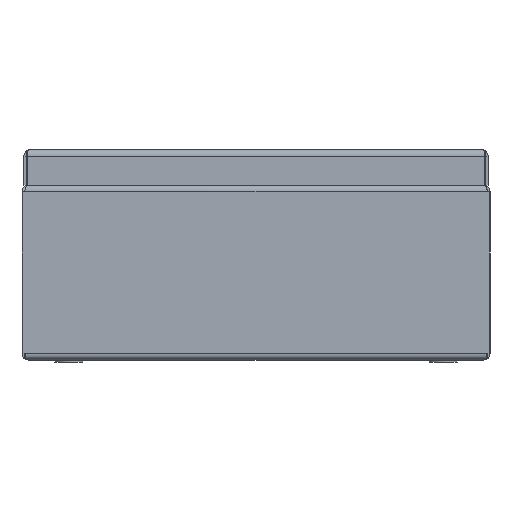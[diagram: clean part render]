
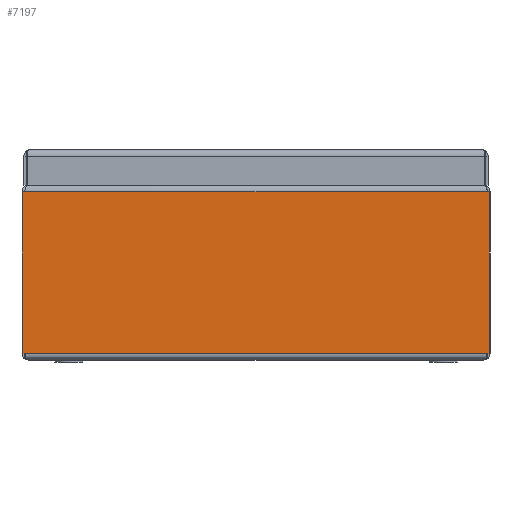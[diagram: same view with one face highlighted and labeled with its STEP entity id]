
A CAD part, left-side view. The second image highlights one B-rep face of the part: STEP entity #7197.
In plain terms, the highlighted planar face has unit normal (-1, 0, 0).
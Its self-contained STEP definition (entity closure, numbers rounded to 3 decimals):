
#211=B_SPLINE_CURVE_WITH_KNOTS('',3,(#12045,#12046,#12047,#12048),
 .UNSPECIFIED.,.F.,.F.,(4,4),(0.002,0.003),
 .UNSPECIFIED.);
#726=LINE('',#12009,#1434);
#731=LINE('',#12019,#1439);
#759=LINE('',#12162,#1467);
#760=LINE('',#12188,#1468);
#764=LINE('',#12206,#1472);
#766=LINE('',#12209,#1474);
#768=LINE('',#12213,#1476);
#1434=VECTOR('',#9585,1000.);
#1439=VECTOR('',#9600,1000.);
#1467=VECTOR('',#9666,1000.);
#1468=VECTOR('',#9669,1000.);
#1472=VECTOR('',#9677,1000.);
#1474=VECTOR('',#9681,1000.);
#1476=VECTOR('',#9687,1000.);
#2805=ORIENTED_EDGE('',*,*,#4340,.F.);
#2806=ORIENTED_EDGE('',*,*,#4289,.F.);
#2807=ORIENTED_EDGE('',*,*,#4284,.F.);
#2808=ORIENTED_EDGE('',*,*,#4338,.F.);
#2809=ORIENTED_EDGE('',*,*,#4336,.F.);
#2810=ORIENTED_EDGE('',*,*,#4330,.T.);
#2811=ORIENTED_EDGE('',*,*,#4328,.T.);
#2812=ORIENTED_EDGE('',*,*,#4295,.F.);
#4284=EDGE_CURVE('',#5124,#5121,#726,.T.);
#4289=EDGE_CURVE('',#5121,#5125,#731,.T.);
#4295=EDGE_CURVE('',#5130,#5127,#211,.F.);
#4328=EDGE_CURVE('',#5147,#5127,#759,.T.);
#4330=EDGE_CURVE('',#5149,#5147,#760,.T.);
#4336=EDGE_CURVE('',#5149,#5151,#764,.T.);
#4338=EDGE_CURVE('',#5151,#5124,#766,.T.);
#4340=EDGE_CURVE('',#5125,#5130,#768,.T.);
#5121=VERTEX_POINT('',#12002);
#5124=VERTEX_POINT('',#12008);
#5125=VERTEX_POINT('',#12020);
#5127=VERTEX_POINT('',#12036);
#5130=VERTEX_POINT('',#12044);
#5147=VERTEX_POINT('',#12153);
#5149=VERTEX_POINT('',#12189);
#5151=VERTEX_POINT('',#12203);
#5912=EDGE_LOOP('',(#2805,#2806,#2807,#2808,#2809,#2810,#2811,#2812));
#6426=FACE_BOUND('',#5912,.T.);
#6850=PLANE('',#8350);
#7197=ADVANCED_FACE('',(#6426),#6850,.T.);
#8350=AXIS2_PLACEMENT_3D('',#12214,#9688,#9689);
#9585=DIRECTION('',(0.,1.,0.));
#9600=DIRECTION('',(0.,1.,0.));
#9666=DIRECTION('',(0.,1.,0.));
#9669=DIRECTION('',(0.,1.,0.));
#9677=DIRECTION('',(0.,0.,-1.));
#9681=DIRECTION('',(0.,1.,0.));
#9687=DIRECTION('',(0.,0.,1.));
#9688=DIRECTION('',(-1.,0.,0.));
#9689=DIRECTION('',(0.,0.,1.));
#12002=CARTESIAN_POINT('',(-100.,98.599,1.6));
#12008=CARTESIAN_POINT('',(-100.,-98.599,1.6));
#12009=CARTESIAN_POINT('',(-100.,-684.6,1.6));
#12019=CARTESIAN_POINT('',(-100.,-684.6,1.6));
#12020=CARTESIAN_POINT('',(-100.,99.604,1.6));
#12036=CARTESIAN_POINT('',(-100.,98.797,70.8));
#12044=CARTESIAN_POINT('',(-100.,99.604,70.8));
#12045=CARTESIAN_POINT('',(-100.,98.797,70.8));
#12046=CARTESIAN_POINT('',(-100.,99.066,70.8));
#12047=CARTESIAN_POINT('',(-100.,99.335,70.8));
#12048=CARTESIAN_POINT('',(-100.,99.604,70.8));
#12153=CARTESIAN_POINT('',(-100.,-98.797,70.8));
#12162=CARTESIAN_POINT('',(-100.,-684.6,70.8));
#12188=CARTESIAN_POINT('',(-100.,-684.6,70.8));
#12189=CARTESIAN_POINT('',(-100.,-99.604,70.8));
#12203=CARTESIAN_POINT('',(-100.,-99.604,1.6));
#12206=CARTESIAN_POINT('',(-100.,-99.604,-1.2));
#12209=CARTESIAN_POINT('',(-100.,-684.6,1.6));
#12213=CARTESIAN_POINT('',(-100.,99.604,-1.2));
#12214=CARTESIAN_POINT('',(-100.,-684.6,-1.2));
